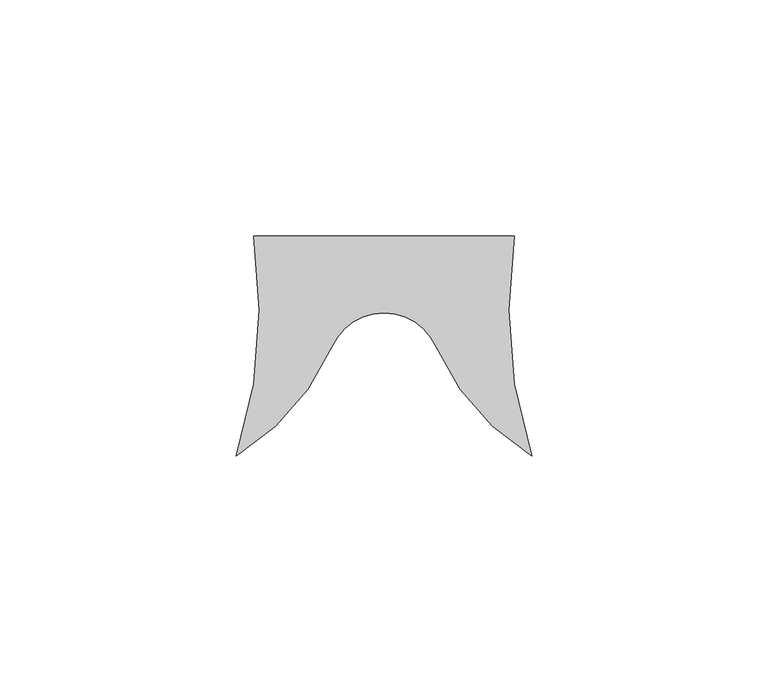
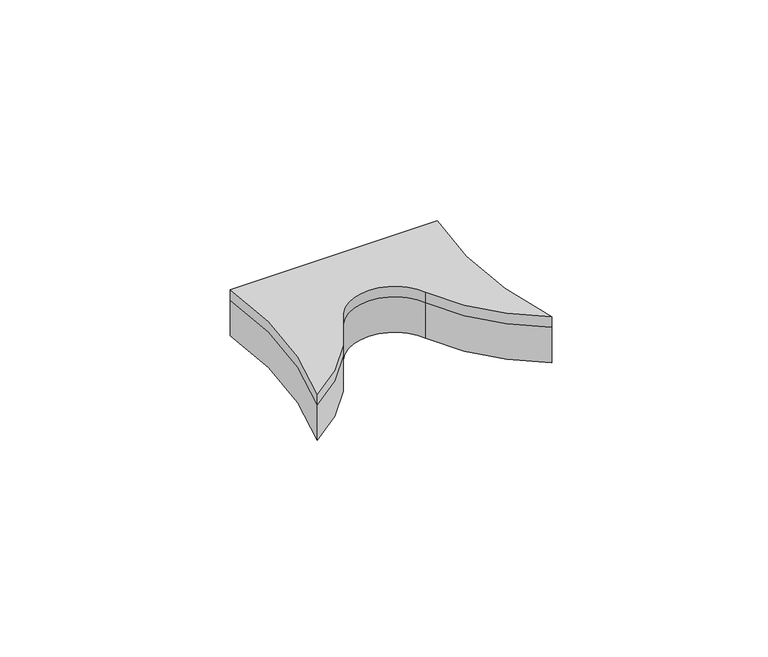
"""IFC4 building model written with IfcOpenShell, lengths in millimetres: proxy geometry, FilzFelt_Fish_Block : Fish Block."""

from ifc_helpers import new_model, si_unit, point, frame, frame_2d, origin, origin_with_axes, place, context, project, spatial, polyline, circle_curve, trimmed, segment, composite_curve, outline, extrude, source, transform, mapped, element, save


def specialty_equipment_d9d0cc40(model_context):
    return source(origin(), model_context, "Body", "SweptSolid", [
        extrude(outline(composite_curve([segment(trimmed(circle_curve(frame_2d((57.9263497, -124.2921115)), 51.2968574), [point((31.2619065, -168.1141956))], [point((11.0103348, -145.0347036))], False, "CARTESIAN"), True, "CONTINUOUS"), segment(trimmed(circle_curve(frame_2d((0.0, -149.9026124)), 12.0384388), [point((11.0103348, -145.0347036))], [point((-11.0103348, -145.0347036))], True, "CARTESIAN"), True, "CONTINUOUS"), segment(trimmed(circle_curve(frame_2d((-57.9263497, -124.2921115)), 51.2968574), [point((-11.0103348, -145.0347036))], [point((-31.2619065, -168.1141956))], False, "CARTESIAN"), True, "CONTINUOUS"), segment(trimmed(circle_curve(frame_2d((-126.6124317, -137.2240266)), 100.2293629), [point((-31.2619065, -168.1141956))], [point((-27.6129447, -121.570696))], True, "CARTESIAN"), True, "CONTINUOUS"), segment(polyline([(-27.6129447, -121.570696), (27.6129447, -121.570696)]), True, "CONTINUOUS"), segment(trimmed(circle_curve(frame_2d((126.6124317, -137.2240266)), 100.2293629), [point((27.6129447, -121.570696))], [point((31.2619065, -168.1141956))], True, "CARTESIAN"), True, "CONTINUOUS")], self_intersect=False)), frame((0.0, 0.0, 10.0210937), z_axis=(0.0, 0.0, 1.0), x_axis=(1.0, 0.0, 0.0)), (0.0, 0.0, 1.0), 2.9765625),
        extrude(outline(composite_curve([segment(trimmed(circle_curve(frame_2d((57.9263497, -124.2921115)), 51.2968574), [point((31.2619065, -168.1141956))], [point((11.0103348, -145.0347036))], False, "CARTESIAN"), True, "CONTINUOUS"), segment(trimmed(circle_curve(frame_2d((0.0, -149.9026124)), 12.0384388), [point((11.0103348, -145.0347036))], [point((-11.0103348, -145.0347036))], True, "CARTESIAN"), True, "CONTINUOUS"), segment(trimmed(circle_curve(frame_2d((-57.9263497, -124.2921115)), 51.2968574), [point((-11.0103348, -145.0347036))], [point((-31.2619065, -168.1141956))], False, "CARTESIAN"), True, "CONTINUOUS"), segment(trimmed(circle_curve(frame_2d((-126.6124317, -137.2240266)), 100.2293629), [point((-31.2619065, -168.1141956))], [point((-27.6129447, -121.570696))], True, "CARTESIAN"), True, "CONTINUOUS"), segment(polyline([(-27.6129447, -121.570696), (27.6129447, -121.570696)]), True, "CONTINUOUS"), segment(trimmed(circle_curve(frame_2d((126.6124317, -137.2240266)), 100.2293629), [point((27.6129447, -121.570696))], [point((31.2619065, -168.1141956))], True, "CARTESIAN"), True, "CONTINUOUS")], self_intersect=False)), origin_with_axes(), (0.0, 0.0, 1.0), 10.0210938),
    ])


if __name__ == "__main__":
    model = new_model("IFC4")
    model_context = context("Model", 3, world=origin())
    ifc_project = project(units=[si_unit("LENGTHUNIT", "METRE", prefix="MILLI")], contexts=[model_context])
    site = spatial("IfcSite", under=ifc_project)
    building = spatial("IfcBuilding", under=site)
    placement = place(None, origin())
    specialty_equipment_shape = specialty_equipment_d9d0cc40(model_context)
    element("IfcBuildingElementProxy", 1, Name="FilzFelt_Fish_Block : Fish Block", ObjectType="FilzFelt_Fish_Block : Fish Block", at=placement, inside=building, context=model_context, shape_type="MappedRepresentation", body=[
        mapped(specialty_equipment_shape, transform((0.0, 0.0, 0.0), x_axis=(1.0, 0.0, 0.0), y_axis=(0.0, 1.0, 0.0), z_axis=(0.0, 0.0, 1.0))),
    ])
    save(model, "model.ifc")
